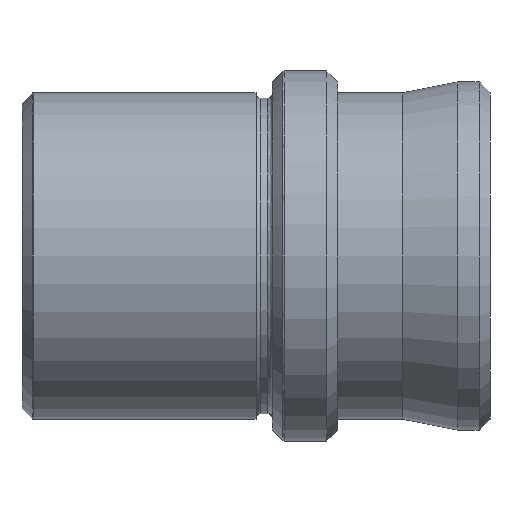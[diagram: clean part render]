
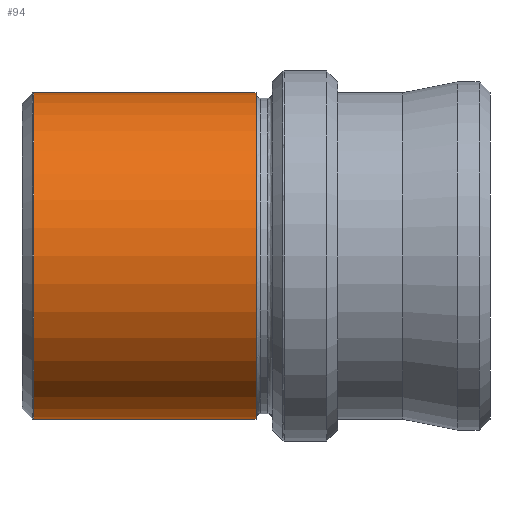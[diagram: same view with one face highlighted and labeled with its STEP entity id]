
A CAD part, left-side view. The second image highlights one B-rep face of the part: STEP entity #94.
In plain terms, the highlighted face is a revolution surface.
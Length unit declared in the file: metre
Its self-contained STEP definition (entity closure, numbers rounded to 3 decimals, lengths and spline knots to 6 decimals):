
#94 = ADVANCED_FACE( '', ( #155 ), #156, .F. );
#155 = FACE_OUTER_BOUND( '', #303, .T. );
#156 = SURFACE_OF_REVOLUTION( '', #304, #305 );
#303 = EDGE_LOOP( '', ( #701, #702, #703, #704 ) );
#304 = B_SPLINE_CURVE_WITH_KNOTS( '', 1, ( #705, #706 ), .UNSPECIFIED., .F., .F., ( 2, 2 ), ( -10000., 10000. ), .UNSPECIFIED. );
#305 = AXIS1_PLACEMENT( '', #707, #708 );
#701 = ORIENTED_EDGE( '', *, *, #867, .F. );
#702 = ORIENTED_EDGE( '', *, *, #868, .T. );
#703 = ORIENTED_EDGE( '', *, *, #869, .F. );
#704 = ORIENTED_EDGE( '', *, *, #870, .T. );
#705 = CARTESIAN_POINT( '', ( 0., 10000.057917, -0.015 ) );
#706 = CARTESIAN_POINT( '', ( 0., -9999.942083, -0.015 ) );
#707 = CARTESIAN_POINT( '', ( 0., 0.059, 0. ) );
#708 = DIRECTION( '', ( 0., 1., 0. ) );
#867 = EDGE_CURVE( '', #969, #970, #971, .F. );
#868 = EDGE_CURVE( '', #969, #972, #973, .T. );
#869 = EDGE_CURVE( '', #974, #972, #975, .T. );
#870 = EDGE_CURVE( '', #974, #970, #976, .F. );
#969 = VERTEX_POINT( '', #1123 );
#970 = VERTEX_POINT( '', #1124 );
#971 = CIRCLE( '', #1125, 0.015 );
#972 = VERTEX_POINT( '', #1126 );
#973 = LINE( '', #1127, #1128 );
#974 = VERTEX_POINT( '', #1129 );
#975 = CIRCLE( '', #1130, 0.015 );
#976 = LINE( '', #1131, #1132 );
#1123 = CARTESIAN_POINT( '', ( 0., 0.057917, -0.015 ) );
#1124 = CARTESIAN_POINT( '', ( 0., 0.057917, 0.015 ) );
#1125 = AXIS2_PLACEMENT_3D( '', #1337, #1338, #1339 );
#1126 = CARTESIAN_POINT( '', ( 0., 0.0375, -0.015 ) );
#1127 = CARTESIAN_POINT( '', ( 0., 0.057917, -0.015 ) );
#1128 = VECTOR( '', #1340, 1. );
#1129 = CARTESIAN_POINT( '', ( 0., 0.0375, 0.015 ) );
#1130 = AXIS2_PLACEMENT_3D( '', #1341, #1342, #1343 );
#1131 = CARTESIAN_POINT( '', ( 0., 0.057917, 0.015 ) );
#1132 = VECTOR( '', #1344, 1. );
#1337 = CARTESIAN_POINT( '', ( 0., 0.057917, 0. ) );
#1338 = DIRECTION( '', ( 0., -1., 0. ) );
#1339 = DIRECTION( '', ( 0., 0., -1. ) );
#1340 = DIRECTION( '', ( 0., -1., 0. ) );
#1341 = CARTESIAN_POINT( '', ( 0., 0.0375, 0. ) );
#1342 = DIRECTION( '', ( 0., -1., 0. ) );
#1343 = DIRECTION( '', ( 0., 0., -1. ) );
#1344 = DIRECTION( '', ( 0., -1., 0. ) );
